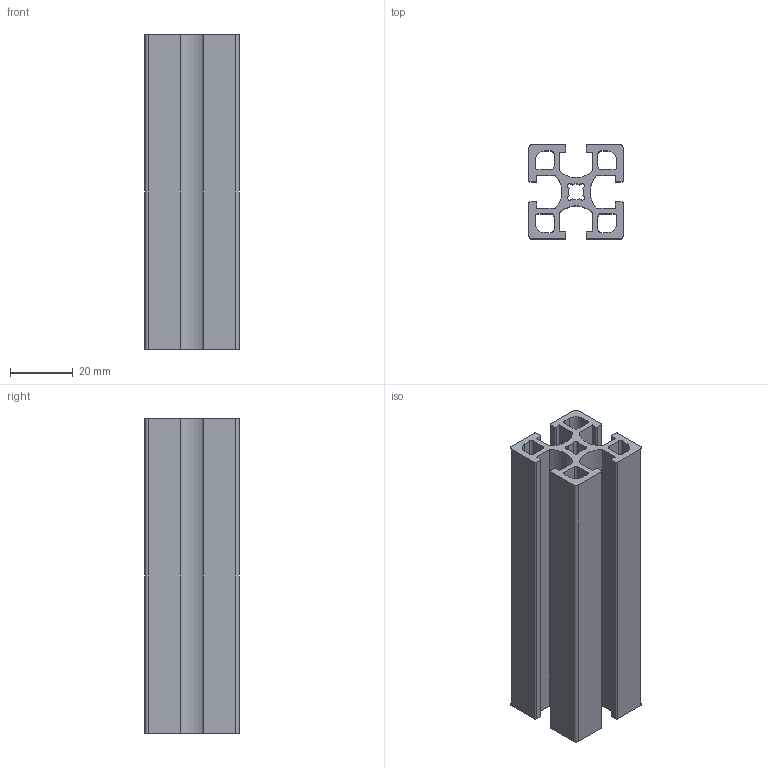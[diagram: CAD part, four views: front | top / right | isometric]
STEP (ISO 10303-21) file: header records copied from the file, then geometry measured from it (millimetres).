
FILE_DESCRIPTION (( 'STEP AP203' ), '1' );
FILE_NAME ('WS3030-6.STEP', '2024-02-17T06:33:57', ( '' ), ( '' ), 'SwSTEP 2.0', 'SolidWorks 2022', '' );
FILE_SCHEMA (( 'CONFIG_CONTROL_DESIGN' ));
Length unit declared in the file: millimetre
Products named in the file (1): WS3030-6
Bounding box: 30 x 30 x 100 mm (x, y, z)
Volume: 36680.5 mm3; surface area: 33510.6 mm2
Topology: 1 solids, 1 shells, 110 faces, 324 edges, 216 vertices
Faces by surface type: plane 58, cylinder 52
Entity records: 3789 total; most frequent: CARTESIAN_POINT 651, DIRECTION 650, ORIENTED_EDGE 648, EDGE_CURVE 324, LINE 220, VECTOR 220, VERTEX_POINT 216, AXIS2_PLACEMENT_3D 215
